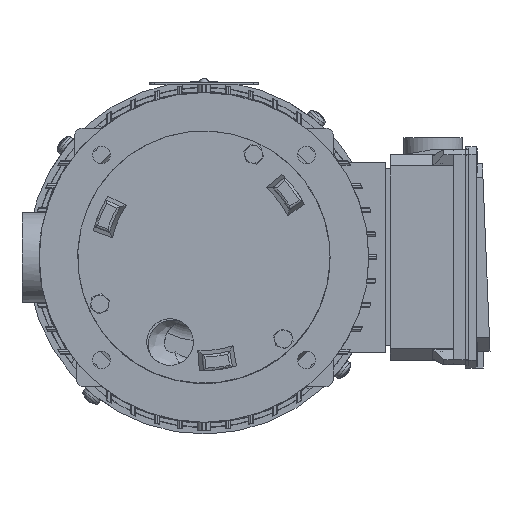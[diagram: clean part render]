
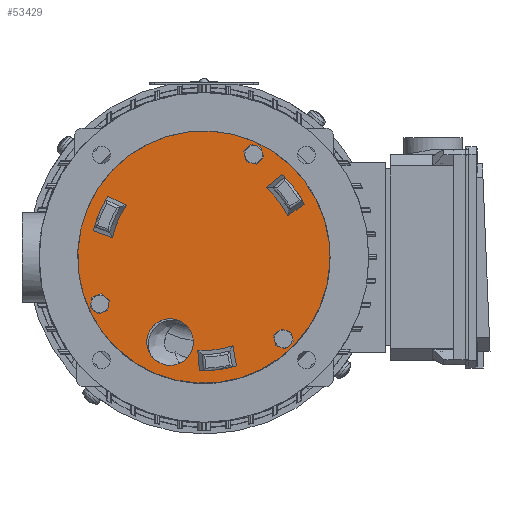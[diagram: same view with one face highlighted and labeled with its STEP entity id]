
A CAD part, front view. The second image highlights one B-rep face of the part: STEP entity #53429.
In plain terms, the highlighted planar face has unit normal (0, -1, 0).
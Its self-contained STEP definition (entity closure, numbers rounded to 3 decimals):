
#2790=FACE_BOUND('',#15245,.T.);
#2791=FACE_BOUND('',#15246,.T.);
#2792=FACE_BOUND('',#15247,.T.);
#2793=FACE_BOUND('',#15248,.T.);
#2794=FACE_BOUND('',#15249,.T.);
#2795=FACE_BOUND('',#15250,.T.);
#2796=FACE_BOUND('',#15251,.T.);
#3881=LINE('',#82384,#8210);
#3886=LINE('',#82468,#8215);
#3891=LINE('',#82559,#8220);
#3892=LINE('',#82573,#8221);
#3893=LINE('',#82578,#8222);
#3894=LINE('',#82587,#8223);
#8210=VECTOR('',#63938,1.);
#8215=VECTOR('',#63965,1.);
#8220=VECTOR('',#63998,1.);
#8221=VECTOR('',#64009,1.);
#8222=VECTOR('',#64016,1.);
#8223=VECTOR('',#64025,1.);
#12415=FACE_OUTER_BOUND('',#15244,.T.);
#15244=EDGE_LOOP('',(#36180));
#15245=EDGE_LOOP('',(#36181,#36182));
#15246=EDGE_LOOP('',(#36183,#36184));
#15247=EDGE_LOOP('',(#36185,#36186));
#15248=EDGE_LOOP('',(#36187,#36188,#36189,#36190));
#15249=EDGE_LOOP('',(#36191,#36192,#36193,#36194));
#15250=EDGE_LOOP('',(#36195,#36196,#36197,#36198));
#15251=EDGE_LOOP('',(#36199));
#18154=CIRCLE('',#56761,0.302);
#18155=CIRCLE('',#56762,0.302);
#18169=CIRCLE('',#56795,0.302);
#18170=CIRCLE('',#56796,0.302);
#18184=CIRCLE('',#56829,0.302);
#18185=CIRCLE('',#56830,0.302);
#18203=CIRCLE('',#56863,0.925);
#18214=CIRCLE('',#56878,5.);
#18223=CIRCLE('',#56898,3.702);
#18228=CIRCLE('',#56914,4.502);
#18233=CIRCLE('',#56928,4.502);
#18234=CIRCLE('',#56932,3.702);
#18235=CIRCLE('',#56936,4.502);
#18236=CIRCLE('',#56939,3.702);
#20701=VERTEX_POINT('',#81721);
#20702=VERTEX_POINT('',#81722);
#20728=VERTEX_POINT('',#81833);
#20729=VERTEX_POINT('',#81834);
#20755=VERTEX_POINT('',#81945);
#20756=VERTEX_POINT('',#81946);
#20779=VERTEX_POINT('',#82157);
#20789=VERTEX_POINT('',#82265);
#20801=VERTEX_POINT('',#82372);
#20802=VERTEX_POINT('',#82376);
#20803=VERTEX_POINT('',#82382);
#20814=VERTEX_POINT('',#82465);
#20815=VERTEX_POINT('',#82467);
#20816=VERTEX_POINT('',#82473);
#20827=VERTEX_POINT('',#82556);
#20828=VERTEX_POINT('',#82558);
#20829=VERTEX_POINT('',#82564);
#20830=VERTEX_POINT('',#82569);
#20831=VERTEX_POINT('',#82577);
#20832=VERTEX_POINT('',#82583);
#26403=EDGE_CURVE('',#20701,#20702,#18154,.T.);
#26404=EDGE_CURVE('',#20702,#20701,#18155,.T.);
#26445=EDGE_CURVE('',#20728,#20729,#18169,.T.);
#26446=EDGE_CURVE('',#20729,#20728,#18170,.T.);
#26487=EDGE_CURVE('',#20755,#20756,#18184,.T.);
#26488=EDGE_CURVE('',#20756,#20755,#18185,.T.);
#26530=EDGE_CURVE('',#20779,#20779,#18203,.T.);
#26548=EDGE_CURVE('',#20789,#20789,#18214,.T.);
#26570=EDGE_CURVE('',#20802,#20801,#18223,.T.);
#26573=EDGE_CURVE('',#20801,#20803,#3881,.T.);
#26589=EDGE_CURVE('',#20815,#20814,#3886,.T.);
#26592=EDGE_CURVE('',#20814,#20816,#18228,.T.);
#26608=EDGE_CURVE('',#20828,#20827,#3891,.T.);
#26611=EDGE_CURVE('',#20827,#20829,#18233,.T.);
#26613=EDGE_CURVE('',#20829,#20830,#3892,.T.);
#26614=EDGE_CURVE('',#20830,#20828,#18234,.T.);
#26615=EDGE_CURVE('',#20831,#20802,#3893,.T.);
#26617=EDGE_CURVE('',#20803,#20831,#18235,.T.);
#26619=EDGE_CURVE('',#20816,#20832,#3894,.T.);
#26620=EDGE_CURVE('',#20832,#20815,#18236,.T.);
#36180=ORIENTED_EDGE('',*,*,#26548,.T.);
#36181=ORIENTED_EDGE('',*,*,#26403,.T.);
#36182=ORIENTED_EDGE('',*,*,#26404,.T.);
#36183=ORIENTED_EDGE('',*,*,#26445,.T.);
#36184=ORIENTED_EDGE('',*,*,#26446,.T.);
#36185=ORIENTED_EDGE('',*,*,#26487,.T.);
#36186=ORIENTED_EDGE('',*,*,#26488,.T.);
#36187=ORIENTED_EDGE('',*,*,#26613,.T.);
#36188=ORIENTED_EDGE('',*,*,#26614,.T.);
#36189=ORIENTED_EDGE('',*,*,#26608,.T.);
#36190=ORIENTED_EDGE('',*,*,#26611,.T.);
#36191=ORIENTED_EDGE('',*,*,#26615,.T.);
#36192=ORIENTED_EDGE('',*,*,#26570,.T.);
#36193=ORIENTED_EDGE('',*,*,#26573,.T.);
#36194=ORIENTED_EDGE('',*,*,#26617,.T.);
#36195=ORIENTED_EDGE('',*,*,#26619,.T.);
#36196=ORIENTED_EDGE('',*,*,#26620,.T.);
#36197=ORIENTED_EDGE('',*,*,#26589,.T.);
#36198=ORIENTED_EDGE('',*,*,#26592,.T.);
#36199=ORIENTED_EDGE('',*,*,#26530,.T.);
#48671=PLANE('',#56940);
#53429=ADVANCED_FACE('',(#12415,#2790,#2791,#2792,#2793,#2794,#2795,#2796),
#48671,.F.);
#56761=AXIS2_PLACEMENT_3D('',#81723,#63605,#63606);
#56762=AXIS2_PLACEMENT_3D('',#81724,#63607,#63608);
#56795=AXIS2_PLACEMENT_3D('',#81835,#63688,#63689);
#56796=AXIS2_PLACEMENT_3D('',#81836,#63690,#63691);
#56829=AXIS2_PLACEMENT_3D('',#81947,#63771,#63772);
#56830=AXIS2_PLACEMENT_3D('',#81948,#63773,#63774);
#56863=AXIS2_PLACEMENT_3D('',#82159,#63855,#63856);
#56878=AXIS2_PLACEMENT_3D('',#82266,#63887,#63888);
#56898=AXIS2_PLACEMENT_3D('',#82377,#63932,#63933);
#56914=AXIS2_PLACEMENT_3D('',#82475,#63970,#63971);
#56928=AXIS2_PLACEMENT_3D('',#82566,#64003,#64004);
#56932=AXIS2_PLACEMENT_3D('',#82575,#64012,#64013);
#56936=AXIS2_PLACEMENT_3D('',#82581,#64021,#64022);
#56939=AXIS2_PLACEMENT_3D('',#82589,#64028,#64029);
#56940=AXIS2_PLACEMENT_3D('',#82590,#64030,#64031);
#63605=DIRECTION('center_axis',(0.,1.,0.));
#63606=DIRECTION('ref_axis',(0.966,0.,-0.258));
#63607=DIRECTION('center_axis',(0.,1.,0.));
#63608=DIRECTION('ref_axis',(0.966,0.,-0.258));
#63688=DIRECTION('center_axis',(0.,1.,0.));
#63689=DIRECTION('ref_axis',(0.941,0.,0.337));
#63690=DIRECTION('center_axis',(0.,1.,0.));
#63691=DIRECTION('ref_axis',(0.941,0.,0.337));
#63771=DIRECTION('center_axis',(0.,1.,0.));
#63772=DIRECTION('ref_axis',(0.732,0.,0.682));
#63773=DIRECTION('center_axis',(0.,1.,0.));
#63774=DIRECTION('ref_axis',(0.732,0.,0.682));
#63855=DIRECTION('center_axis',(0.,1.,0.));
#63856=DIRECTION('ref_axis',(-0.797,0.,-0.604));
#63887=DIRECTION('center_axis',(0.,-1.,0.));
#63888=DIRECTION('ref_axis',(-0.797,0.,-0.604));
#63932=DIRECTION('center_axis',(0.,-1.,0.));
#63933=DIRECTION('ref_axis',(0.832,0.,-0.555));
#63938=DIRECTION('',(-0.94,0.,0.342));
#63965=DIRECTION('',(0.174,0.,-0.985));
#63970=DIRECTION('center_axis',(0.,1.,0.));
#63971=DIRECTION('ref_axis',(-0.04,0.,-0.999));
#63998=DIRECTION('',(0.766,0.,0.643));
#64003=DIRECTION('center_axis',(0.,1.,0.));
#64004=DIRECTION('ref_axis',(0.885,0.,0.465));
#64009=DIRECTION('',(-0.826,0.,-0.564));
#64012=DIRECTION('center_axis',(0.,-1.,0.));
#64013=DIRECTION('ref_axis',(-0.897,0.,-0.443));
#64016=DIRECTION('',(0.901,0.,-0.433));
#64021=DIRECTION('center_axis',(0.,1.,0.));
#64022=DIRECTION('ref_axis',(-0.845,0.,0.534));
#64025=DIRECTION('',(-0.076,0.,0.997));
#64028=DIRECTION('center_axis',(0.,-1.,0.));
#64029=DIRECTION('ref_axis',(0.065,0.,0.998));
#64030=DIRECTION('center_axis',(0.,1.,0.));
#64031=DIRECTION('ref_axis',(-0.604,0.,0.797));
#81721=CARTESIAN_POINT('',(2.257,-12.045,4.008));
#81722=CARTESIAN_POINT('',(1.674,-12.045,4.164));
#81723=CARTESIAN_POINT('Origin',(1.965,-12.045,4.086));
#81724=CARTESIAN_POINT('Origin',(1.965,-12.045,4.086));
#81833=CARTESIAN_POINT('',(-3.85,-12.045,-1.739));
#81834=CARTESIAN_POINT('',(-4.418,-12.045,-1.942));
#81835=CARTESIAN_POINT('Origin',(-4.134,-12.045,-1.84));
#81836=CARTESIAN_POINT('Origin',(-4.134,-12.045,-1.84));
#81945=CARTESIAN_POINT('',(3.368,-12.045,-3.027));
#81946=CARTESIAN_POINT('',(2.927,-12.045,-3.438));
#81947=CARTESIAN_POINT('Origin',(3.148,-12.045,-3.232));
#81948=CARTESIAN_POINT('Origin',(3.148,-12.045,-3.232));
#82157=CARTESIAN_POINT('',(-0.608,-12.045,-2.797));
#82159=CARTESIAN_POINT('Origin',(-1.345,-12.045,-3.356));
#82265=CARTESIAN_POINT('',(3.978,-12.045,3.034));
#82266=CARTESIAN_POINT('Origin',(-0.006,-12.045,
0.013));
#82372=CARTESIAN_POINT('',(-3.627,-12.045,0.777));
#82376=CARTESIAN_POINT('',(-3.084,-12.045,2.068));
#82377=CARTESIAN_POINT('Origin',(-0.006,-12.045,
0.013));
#82382=CARTESIAN_POINT('',(-4.385,-12.045,1.053));
#82384=CARTESIAN_POINT('',(-2.284,-12.045,0.289));
#82465=CARTESIAN_POINT('',(1.283,-12.045,-4.3));
#82467=CARTESIAN_POINT('',(1.143,-12.045,-3.506));
#82468=CARTESIAN_POINT('',(0.894,-12.045,-2.099));
#82473=CARTESIAN_POINT('',(-0.185,-12.045,-4.485));
#82475=CARTESIAN_POINT('Origin',(-0.006,-12.045,
0.013));
#82556=CARTESIAN_POINT('',(3.085,-12.045,3.286));
#82558=CARTESIAN_POINT('',(2.467,-12.045,2.767));
#82559=CARTESIAN_POINT('',(1.373,-12.045,1.848));
#82564=CARTESIAN_POINT('',(3.979,-12.045,2.106));
#82566=CARTESIAN_POINT('Origin',(-0.006,-12.045,
0.013));
#82569=CARTESIAN_POINT('',(3.313,-12.045,1.652));
#82573=CARTESIAN_POINT('',(1.8,-12.045,0.618));
#82575=CARTESIAN_POINT('Origin',(-0.006,-12.045,
0.013));
#82577=CARTESIAN_POINT('',(-3.811,-12.045,2.417));
#82578=CARTESIAN_POINT('',(-1.433,-12.045,1.274));
#82581=CARTESIAN_POINT('Origin',(-0.006,-12.045,
0.013));
#82583=CARTESIAN_POINT('',(-0.246,-12.045,-3.681));
#82587=CARTESIAN_POINT('',(-0.385,-12.045,-1.854));
#82589=CARTESIAN_POINT('Origin',(-0.006,-12.045,
0.013));
#82590=CARTESIAN_POINT('Origin',(-0.006,-12.045,
0.013));
